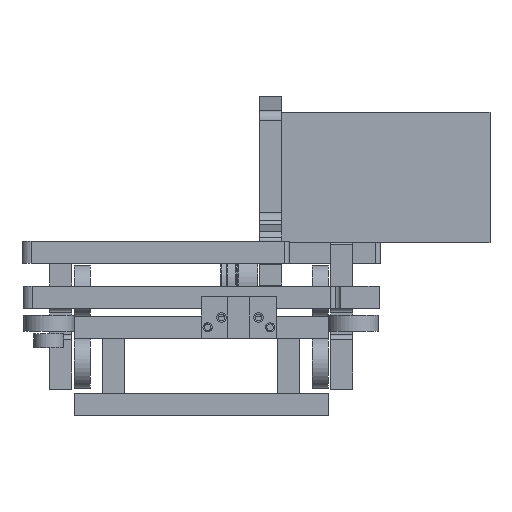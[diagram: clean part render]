
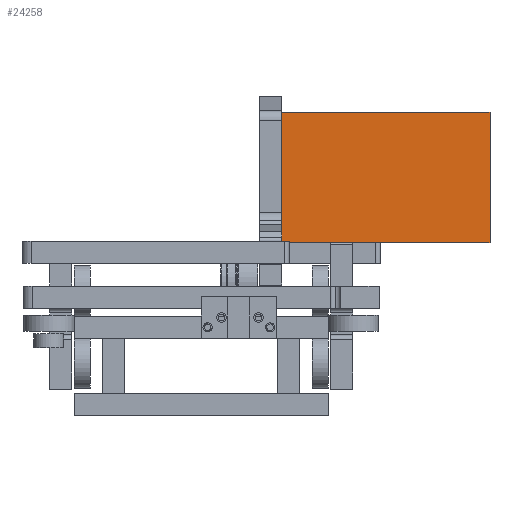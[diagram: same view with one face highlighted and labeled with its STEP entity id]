
A CAD part, left-side view. The second image highlights one B-rep face of the part: STEP entity #24258.
In plain terms, the highlighted planar face has unit normal (-1, 0, 0).
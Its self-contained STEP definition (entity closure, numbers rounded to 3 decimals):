
#745=PLANE('',#26539);
#1678=FACE_OUTER_BOUND('',#3263,.T.);
#3263=EDGE_LOOP('',(#19645,#19646,#19647,#19648));
#4996=LINE('',#39733,#6967);
#4997=LINE('',#39736,#6968);
#4998=LINE('',#39738,#6969);
#4999=LINE('',#39739,#6970);
#6967=VECTOR('',#32271,10.);
#6968=VECTOR('',#32274,10.);
#6969=VECTOR('',#32275,10.);
#6970=VECTOR('',#32276,10.);
#10852=VERTEX_POINT('',#39727);
#10854=VERTEX_POINT('',#39731);
#10855=VERTEX_POINT('',#39735);
#10856=VERTEX_POINT('',#39737);
#13954=EDGE_CURVE('',#10852,#10854,#4996,.T.);
#13955=EDGE_CURVE('',#10852,#10855,#4997,.T.);
#13956=EDGE_CURVE('',#10856,#10854,#4998,.T.);
#13957=EDGE_CURVE('',#10855,#10856,#4999,.T.);
#19645=ORIENTED_EDGE('',*,*,#13955,.F.);
#19646=ORIENTED_EDGE('',*,*,#13954,.T.);
#19647=ORIENTED_EDGE('',*,*,#13956,.F.);
#19648=ORIENTED_EDGE('',*,*,#13957,.F.);
#24258=ADVANCED_FACE('',(#1678),#745,.T.);
#26539=AXIS2_PLACEMENT_3D('',#39734,#32272,#32273);
#32271=DIRECTION('',(0.,-1.,0.));
#32272=DIRECTION('center_axis',(-1.,0.,0.));
#32273=DIRECTION('ref_axis',(0.,0.,-1.));
#32274=DIRECTION('',(0.,0.,1.));
#32275=DIRECTION('',(0.,0.,-1.));
#32276=DIRECTION('',(0.,-1.,0.));
#39727=CARTESIAN_POINT('',(40.3,20.1,31.8));
#39731=CARTESIAN_POINT('',(40.3,-69.9,31.8));
#39733=CARTESIAN_POINT('',(40.3,20.1,31.8));
#39734=CARTESIAN_POINT('Origin',(40.3,20.1,88.2));
#39735=CARTESIAN_POINT('',(40.3,20.1,88.2));
#39736=CARTESIAN_POINT('',(40.3,20.1,31.8));
#39737=CARTESIAN_POINT('',(40.3,-69.9,88.2));
#39738=CARTESIAN_POINT('',(40.3,-69.9,31.8));
#39739=CARTESIAN_POINT('',(40.3,20.1,88.2));
